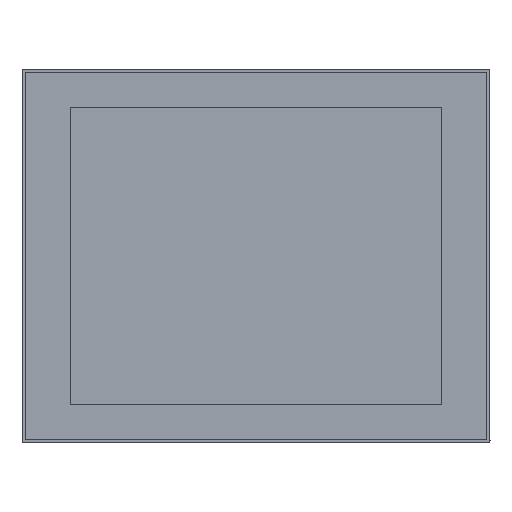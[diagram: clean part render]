
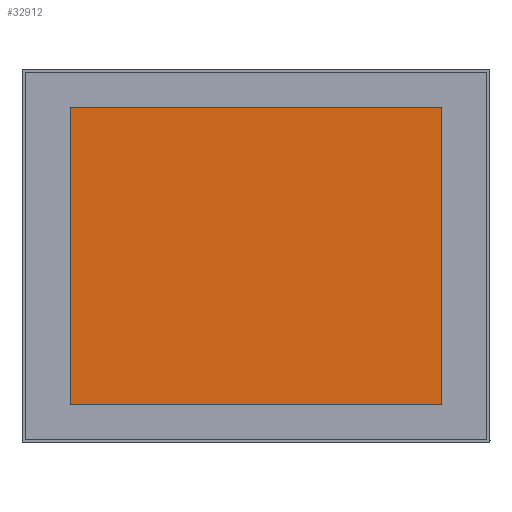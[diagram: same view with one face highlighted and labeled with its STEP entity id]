
A CAD part, top view. The second image highlights one B-rep face of the part: STEP entity #32912.
In plain terms, the highlighted planar face has unit normal (0, 0, 1).
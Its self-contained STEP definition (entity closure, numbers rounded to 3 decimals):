
#6661 = LINE ( 'NONE', #20114, #43860 ) ;
#7650 = ORIENTED_EDGE ( 'NONE', *, *, #12033, .T. ) ;
#12033 = EDGE_CURVE ( 'NONE', #28604, #69406, #6661, .T. ) ;
#12938 = VECTOR ( 'NONE', #39880, 1000. ) ;
#14031 = LINE ( 'NONE', #38911, #12938 ) ;
#20114 = CARTESIAN_POINT ( 'NONE',  ( -169.95, 136.15, -0.2 ) ) ;
#21855 = DIRECTION ( 'NONE',  ( 1., 0., 0. ) ) ;
#22758 = EDGE_LOOP ( 'NONE', ( #56005, #7650, #48243, #84363 ) ) ;
#22934 = EDGE_CURVE ( 'NONE', #69406, #64489, #14031, .T. ) ;
#25650 = VECTOR ( 'NONE', #76220, 1000. ) ;
#28604 = VERTEX_POINT ( 'NONE', #87324 ) ;
#29086 = VECTOR ( 'NONE', #96378, 1000. ) ;
#29742 = CARTESIAN_POINT ( 'NONE',  ( 169.95, -136.15, -0.2 ) ) ;
#32912 = ADVANCED_FACE ( 'NONE', ( #65481 ), #73548, .T. ) ;
#34011 = EDGE_CURVE ( 'NONE', #80004, #28604, #83725, .T. ) ;
#38911 = CARTESIAN_POINT ( 'NONE',  ( -169.95, -136.15, -0.2 ) ) ;
#39880 = DIRECTION ( 'NONE',  ( 1., 0., 0. ) ) ;
#43074 = LINE ( 'NONE', #83003, #25650 ) ;
#43860 = VECTOR ( 'NONE', #94263, 1000. ) ;
#45634 = EDGE_CURVE ( 'NONE', #64489, #80004, #43074, .T. ) ;
#48243 = ORIENTED_EDGE ( 'NONE', *, *, #22934, .T. ) ;
#53570 = CARTESIAN_POINT ( 'NONE',  ( -169.95, -136.15, -0.2 ) ) ;
#56005 = ORIENTED_EDGE ( 'NONE', *, *, #34011, .T. ) ;
#60643 = CARTESIAN_POINT ( 'NONE',  ( 169.95, 136.15, -0.2 ) ) ;
#64489 = VERTEX_POINT ( 'NONE', #29742 ) ;
#65445 = CARTESIAN_POINT ( 'NONE',  ( 0., 0., -0.2 ) ) ;
#65481 = FACE_OUTER_BOUND ( 'NONE', #22758, .T. ) ;
#69406 = VERTEX_POINT ( 'NONE', #53570 ) ;
#73548 = PLANE ( 'NONE',  #88501 ) ;
#76220 = DIRECTION ( 'NONE',  ( 0., 1., 0. ) ) ;
#80004 = VERTEX_POINT ( 'NONE', #60643 ) ;
#83003 = CARTESIAN_POINT ( 'NONE',  ( 169.95, 136.15, -0.2 ) ) ;
#83725 = LINE ( 'NONE', #88903, #29086 ) ;
#84363 = ORIENTED_EDGE ( 'NONE', *, *, #45634, .T. ) ;
#87324 = CARTESIAN_POINT ( 'NONE',  ( -169.95, 136.15, -0.2 ) ) ;
#88501 = AXIS2_PLACEMENT_3D ( 'NONE', #65445, #95022, #21855 ) ;
#88903 = CARTESIAN_POINT ( 'NONE',  ( -169.95, 136.15, -0.2 ) ) ;
#94263 = DIRECTION ( 'NONE',  ( 0., -1., 0. ) ) ;
#95022 = DIRECTION ( 'NONE',  ( 0., 0., 1. ) ) ;
#96378 = DIRECTION ( 'NONE',  ( -1., 0., 0. ) ) ;
